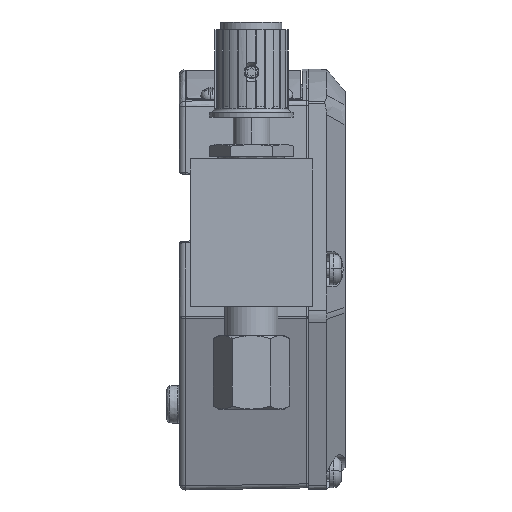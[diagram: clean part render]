
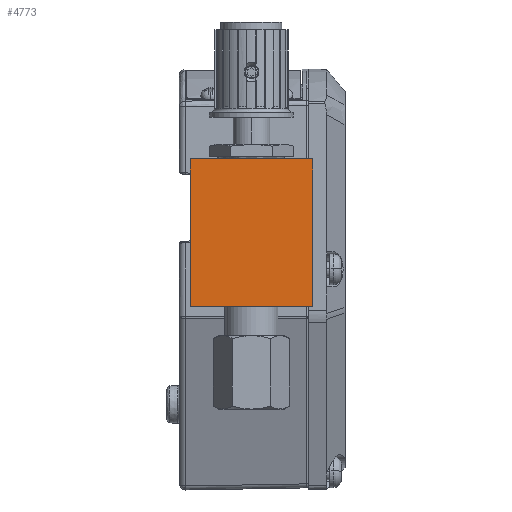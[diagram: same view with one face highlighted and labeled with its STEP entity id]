
A CAD part, front view. The second image highlights one B-rep face of the part: STEP entity #4773.
In plain terms, the highlighted planar face has unit normal (0, -1, 0).
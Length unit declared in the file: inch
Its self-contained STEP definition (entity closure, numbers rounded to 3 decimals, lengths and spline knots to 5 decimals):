
#487 = ORIENTED_EDGE ( 'NONE', *, *, #26170, .T. ) ;
#905 = CARTESIAN_POINT ( 'NONE',  ( 1., -4.515, -1.875 ) ) ;
#2215 = CARTESIAN_POINT ( 'NONE',  ( 0.25, -4.515, -1.875 ) ) ;
#2630 = ORIENTED_EDGE ( 'NONE', *, *, #38128, .T. ) ;
#2802 = DIRECTION ( 'NONE',  ( -1., 0., 0. ) ) ;
#3898 = VECTOR ( 'NONE', #12992, 39.37008 ) ;
#4022 = VECTOR ( 'NONE', #25708, 39.37008 ) ;
#4773 = ADVANCED_FACE ( 'NONE', ( #15068 ), #28453, .T. ) ;
#6722 = CARTESIAN_POINT ( 'NONE',  ( -0.5, -4.515, -1.875 ) ) ;
#6766 = DIRECTION ( 'NONE',  ( 0., -1., 0. ) ) ;
#7556 = VECTOR ( 'NONE', #2802, 39.37008 ) ;
#7755 = VECTOR ( 'NONE', #35289, 39.37008 ) ;
#8768 = VERTEX_POINT ( 'NONE', #905 ) ;
#9136 = LINE ( 'NONE', #42455, #7556 ) ;
#9814 = DIRECTION ( 'NONE',  ( -1., 0., 0. ) ) ;
#10265 = ORIENTED_EDGE ( 'NONE', *, *, #24445, .T. ) ;
#12766 = LINE ( 'NONE', #15821, #3898 ) ;
#12992 = DIRECTION ( 'NONE',  ( 0., 0., -1. ) ) ;
#13735 = CARTESIAN_POINT ( 'NONE',  ( 0.25, -4.515, -1.25 ) ) ;
#15068 = FACE_OUTER_BOUND ( 'NONE', #25484, .T. ) ;
#15821 = CARTESIAN_POINT ( 'NONE',  ( -0.5, -4.515, -1.25 ) ) ;
#19171 = VERTEX_POINT ( 'NONE', #6722 ) ;
#20007 = LINE ( 'NONE', #32737, #4022 ) ;
#21290 = EDGE_CURVE ( 'NONE', #24080, #19171, #12766, .T. ) ;
#22523 = CARTESIAN_POINT ( 'NONE',  ( -0.5, -4.515, -0.625 ) ) ;
#24080 = VERTEX_POINT ( 'NONE', #22523 ) ;
#24445 = EDGE_CURVE ( 'NONE', #19171, #8768, #35503, .T. ) ;
#25484 = EDGE_LOOP ( 'NONE', ( #42736, #10265, #487, #2630 ) ) ;
#25708 = DIRECTION ( 'NONE',  ( 0., 0., 1. ) ) ;
#26170 = EDGE_CURVE ( 'NONE', #8768, #31683, #20007, .T. ) ;
#27375 = CARTESIAN_POINT ( 'NONE',  ( 1., -4.515, -0.625 ) ) ;
#28453 = PLANE ( 'NONE',  #30416 ) ;
#30416 = AXIS2_PLACEMENT_3D ( 'NONE', #13735, #6766, #9814 ) ;
#31683 = VERTEX_POINT ( 'NONE', #27375 ) ;
#32737 = CARTESIAN_POINT ( 'NONE',  ( 1., -4.515, -1.25 ) ) ;
#35289 = DIRECTION ( 'NONE',  ( 1., 0., 0. ) ) ;
#35503 = LINE ( 'NONE', #2215, #7755 ) ;
#38128 = EDGE_CURVE ( 'NONE', #31683, #24080, #9136, .T. ) ;
#42455 = CARTESIAN_POINT ( 'NONE',  ( 0.25, -4.515, -0.625 ) ) ;
#42736 = ORIENTED_EDGE ( 'NONE', *, *, #21290, .T. ) ;
